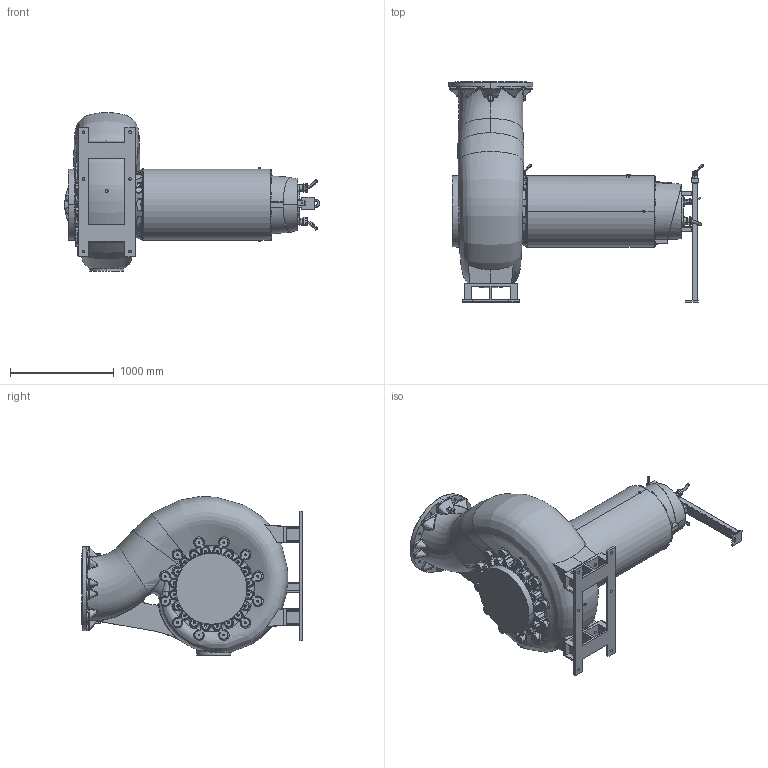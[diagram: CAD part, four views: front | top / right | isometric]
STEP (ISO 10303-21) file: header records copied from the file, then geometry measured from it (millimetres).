
FILE_DESCRIPTION (( 'STEP AP214' ), '1' );
FILE_NAME ('PE6_XFP600V-CH3_DRY HA_C_NG2.STEP', '2017-03-29T09:05:26', ( '' ), ( '' ), 'SwSTEP 2.0', 'SolidWorks 2017', '' );
FILE_SCHEMA (( 'AUTOMOTIVE_DESIGN' ));
Length unit declared in the file: millimetre
Products named in the file (1): PE6_XFP600V-CH3_DRY HA_C_NG2
Bounding box: 2459.5 x 2125 x 1532.39 mm (x, y, z)
Volume: 1678771602.4 mm3; surface area: 14250581.4 mm2
Topology: 5 solids, 24 shells, 3694 faces, 9159 edges, 5292 vertices
Faces by surface type: bspline 1001, plane 935, cylinder 747, cone 521, torus 336, sphere 154
Entity records: 263516 total; most frequent: CARTESIAN_POINT 144698, ORIENTED_EDGE 17618, DIRECTION 14529, EDGE_CURVE 8809, AXIS2_PLACEMENT_3D 5828, VERTEX_POINT 5288, EDGE_LOOP 3943, UNCERTAINTY_MEASURE_WITH_UNIT 3701
